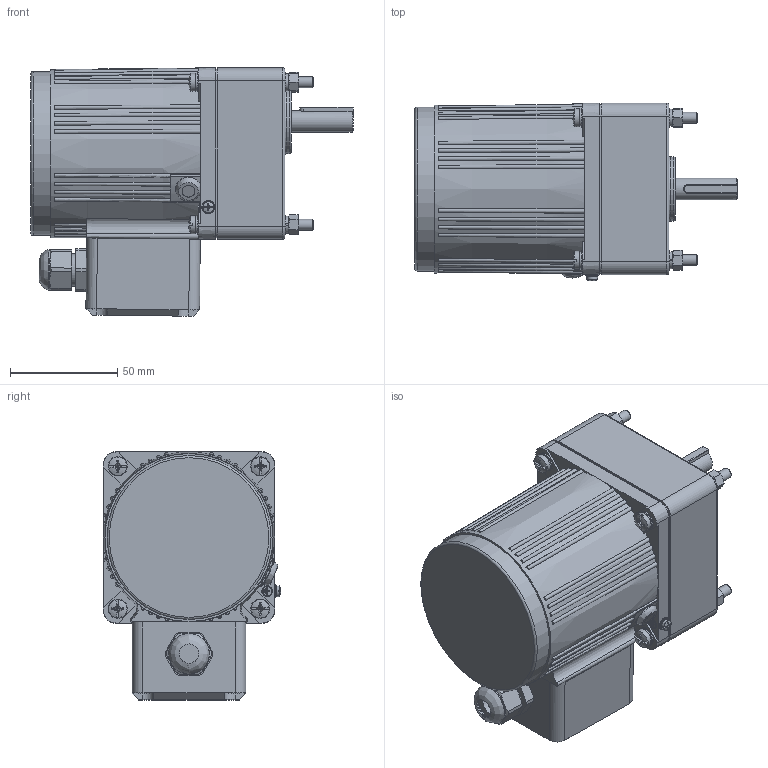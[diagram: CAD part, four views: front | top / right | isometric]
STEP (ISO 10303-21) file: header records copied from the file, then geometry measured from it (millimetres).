
FILE_DESCRIPTION(/* description */ (''),/* implementation_level */ '2;1');
FILE_NAME(/* name */ '4RK25-30GNC-4GN3-20K-C·10T常规接线盒.stp',/* time_stamp */ '2025-04-13T14:37:41+08:00',/* author */ (''),/* organization */ (''),/* preprocessor_version */ 'ST-DEVELOPER v18.102',/* originating_system */ 'SIEMENS PLM Software NX 2027',/* authorisation */ '');
FILE_SCHEMA (('AP203_CONFIGURATION_CONTROLLED_3D_DESIGN_OF_MECHANICAL_PARTS_AND_ASSEMBLIES_MIM_LF { 1 0 10303 403 2 1 2}'));
Length unit declared in the file: millimetre
Products named in the file (1): 4RK25-30CC-4GN3-20K-C·10T_stp_objects
Bounding box: 150.3 x 82.78 x 115.89 mm (x, y, z)
Volume: 671298.3 mm3; surface area: 105286.9 mm2
Topology: 21 solids, 21 shells, 985 faces, 2502 edges, 1611 vertices
Faces by surface type: plane 367, bspline 237, cylinder 181, cone 133, torus 53, sphere 14
Full cylindrical faces by diameter (mm): 2.6 x1, 2.7 x1, 3.2 x1, 4 x1, 4.351 x4, 4.4 x1, 4.5 x4, 4.6 x4, 5 x5, 5.1 x1, 5.3 x8, 6 x10, 6.5 x4, 8.2 x1, 8.5 x4, 9 x9, 10 x1, 10.5 x1, 12 x1, 15 x2, 16 x1, 18 x1, 19 x2, 26 x1, 30 x1, 56 x1, 67 x1, 75 x2, 76.5 x1, 77.5 x1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
Entity records: 36224 total; most frequent: CARTESIAN_POINT 15542, ORIENTED_EDGE 4604, DIRECTION 3260, EDGE_CURVE 2302, VERTEX_POINT 1548, AXIS2_PLACEMENT_3D 1334, EDGE_LOOP 1225, B_SPLINE_CURVE_WITH_KNOTS 1119
